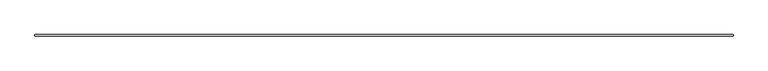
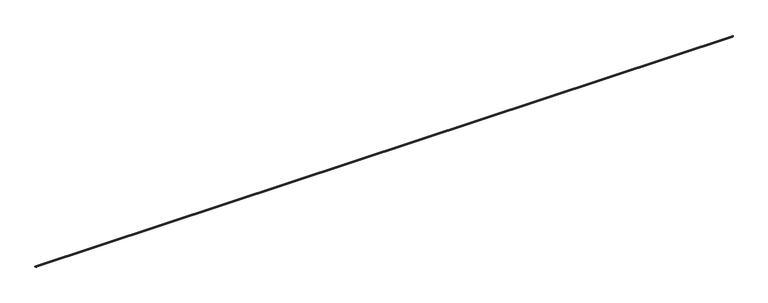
"""IFC4 building model written with IfcOpenShell, lengths in millimetres: slab geometry, ROSA GRES_188 : Pieza 188_Tao_Beige_Liso."""

from ifc_helpers import new_model, si_unit, point, frame, frame_2d, origin, place, context, project, spatial, polyline, circle_curve, trimmed, segment, composite_curve, outline, extrude, source, transform, mapped, element, save


def slab_c4abe388(model_context):
    return source(origin(), model_context, "Body", "SweptSolid", [
        extrude(outline(composite_curve([segment(polyline([(0.0, 8.7114978), (0.0, 40.0), (9.9734114, 40.0)]), True, "CONTINUOUS"), segment(trimmed(circle_curve(frame_2d((39.9955547, 39.9955547)), 30.0221435), [point((9.9734114, 40.0))], [point((40.0, 9.9734114))], True, "CARTESIAN"), True, "CONTINUOUS"), segment(polyline([(40.0, 9.9734114), (40.0, 0.0), (8.7114978, 0.0), (0.0, 8.7114978)]), True, "CONTINUOUS")], self_intersect=False)), frame((0.0, 0.0, 0.0), z_axis=(1.0, 0.0, 0.0), x_axis=(0.0, 1.0, 0.0)), (0.0, 0.0, 1.0), 17991.0),
    ])


if __name__ == "__main__":
    model = new_model("IFC4")
    model_context = context("Model", 3, world=origin())
    ifc_project = project(units=[si_unit("LENGTHUNIT", "METRE", prefix="MILLI")], contexts=[model_context])
    site = spatial("IfcSite", under=ifc_project)
    building = spatial("IfcBuilding", under=site)
    placement = place(None, origin())
    slab_shape = slab_c4abe388(model_context)
    element("IfcSlab", 1, ObjectType="ROSA GRES_188 : Pieza 188_Tao_Beige_Liso", at=placement, inside=building, context=model_context, shape_type="MappedRepresentation", body=[
        mapped(slab_shape, transform((0.0, 0.0, 0.0), x_axis=(1.0, 0.0, 0.0), y_axis=(0.0, 1.0, 0.0), z_axis=(0.0, 0.0, 1.0))),
    ])
    save(model, "model.ifc")
